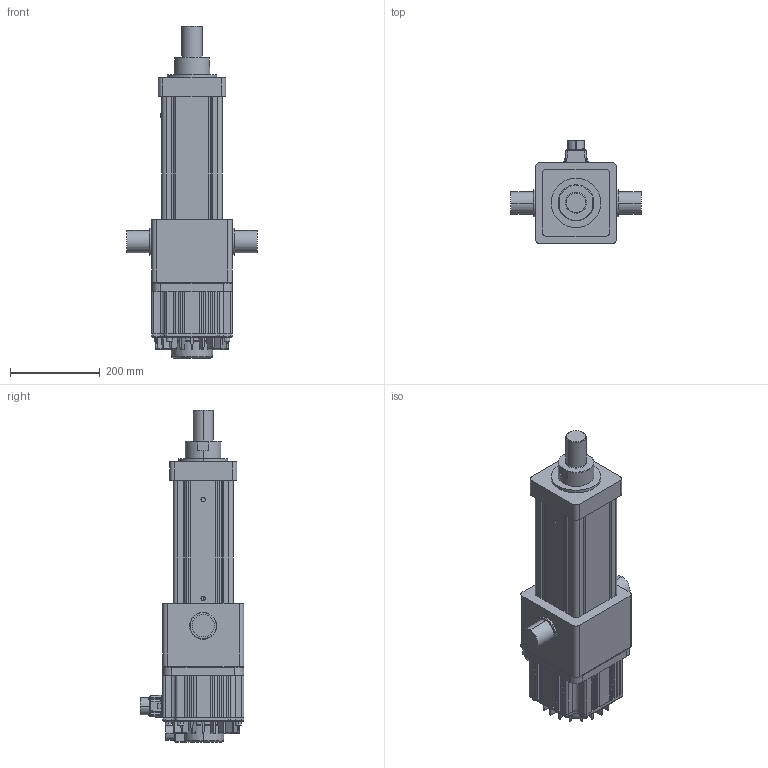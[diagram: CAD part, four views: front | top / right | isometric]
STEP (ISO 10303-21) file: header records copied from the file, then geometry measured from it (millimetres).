
FILE_DESCRIPTION (( 'STEP AP203' ), '1' );
FILE_NAME ('S5眻盄嫉粣假蚾.STEP', '2024-05-27T05:33:14', ( '' ), ( '' ), 'SwSTEP 2.0', 'SolidWorks 2018', '' );
FILE_SCHEMA (( 'CONFIG_CONTROL_DESIGN' ));
Length unit declared in the file: millimetre
Products named in the file (3): S5眻盄嫉粣; ECMA-EX1820RS-180框號系列機種-2KW中慣量系列; S5眻盄嫉粣假蚾
Assembly tree (2 placements, depth 2):
  S5眻盄嫉粣假蚾
    S5眻盄嫉粣
    ECMA-EX1820RS-180框號系列機種-2KW中慣量系列
Bounding box: 290 x 230.02 x 738.7 mm (x, y, z)
Volume: 11108842.7 mm3; surface area: 911924 mm2
Topology: 3 solids, 15 shells, 920 faces, 2185 edges, 1377 vertices
Faces by surface type: plane 485, cylinder 326, cone 66, bspline 27, torus 16
Entity records: 28725 total; most frequent: CARTESIAN_POINT 7125, DIRECTION 4444, ORIENTED_EDGE 4366, EDGE_CURVE 2183, AXIS2_PLACEMENT_3D 1556, VERTEX_POINT 1377, VECTOR 1332, LINE 1332
